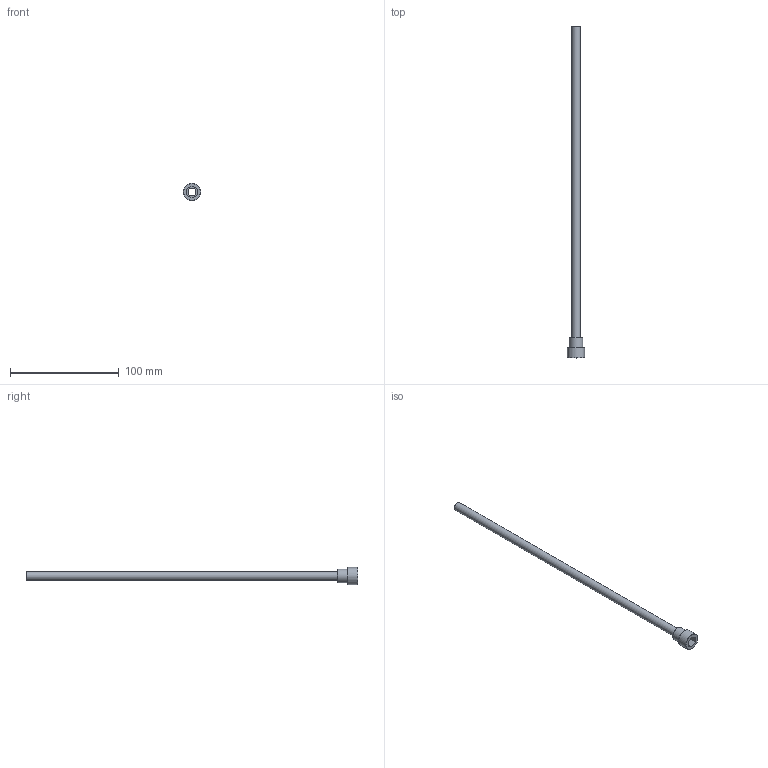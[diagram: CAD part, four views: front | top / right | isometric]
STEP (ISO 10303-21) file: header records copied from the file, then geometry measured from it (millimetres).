
FILE_DESCRIPTION(/* description */ (''),/* implementation_level */ '2;1');
FILE_NAME(/* name */ 'C:/Users/drich/Desktop/JR312T-12 v1.step',/* time_stamp */ '2019-12-30T13:06:43-06:00',/* author */ (''),/* organization */ (''),/* preprocessor_version */ 'ST-DEVELOPER v18',/* originating_system */ 'Autodesk Translation Framework v8.12.0.6',/* authorisation */ '');
FILE_SCHEMA (('AUTOMOTIVE_DESIGN { 1 0 10303 214 3 1 1 }'));
Length unit declared in the file: inch
Products named in the file (1): JR312T-12
Bounding box: 15.75 x 304.8 x 15.75 mm (x, y, z)
Volume: 4041.4 mm3; surface area: 15326.3 mm2
Topology: 1 solids, 1 shells, 19 faces, 47 edges, 33 vertices
Faces by surface type: plane 11, cylinder 4, torus 3, cone 1
Full cylindrical faces by diameter (mm): 7.315 x1, 7.925 x1, 12.565 x1, 15.748 x1
Entity records: 624 total; most frequent: DIRECTION 111, CARTESIAN_POINT 100, ORIENTED_EDGE 94, EDGE_CURVE 47, AXIS2_PLACEMENT_3D 44, VERTEX_POINT 33, EDGE_LOOP 24, CIRCLE 24
